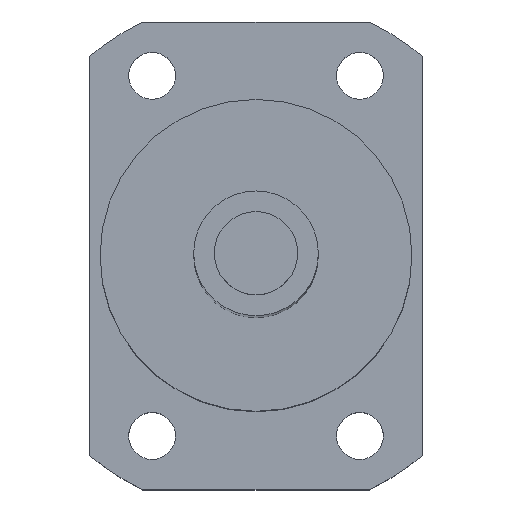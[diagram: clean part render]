
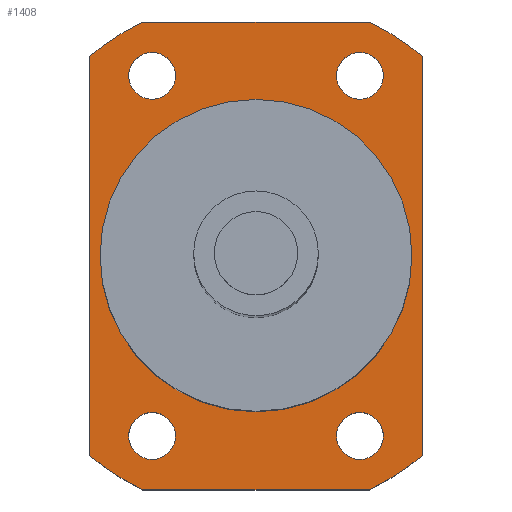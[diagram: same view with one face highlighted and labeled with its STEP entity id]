
A CAD part, top view. The second image highlights one B-rep face of the part: STEP entity #1408.
In plain terms, the highlighted planar face has unit normal (0, 0, 1).
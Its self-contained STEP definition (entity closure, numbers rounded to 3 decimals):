
#328=CARTESIAN_POINT('',(10.,17.321,180.));
#329=DIRECTION('',(0.,0.,-1.));
#330=DIRECTION('',(1.,0.,0.));
#331=AXIS2_PLACEMENT_3D('',#328,#329,#330);
#333=CARTESIAN_POINT('',(10.,17.321,180.));
#334=DIRECTION('',(0.,0.,-1.));
#335=DIRECTION('',(-1.,0.,0.));
#336=AXIS2_PLACEMENT_3D('',#333,#334,#335);
#338=CARTESIAN_POINT('',(-10.,17.321,180.));
#339=DIRECTION('',(0.,0.,-1.));
#340=DIRECTION('',(1.,0.,0.));
#341=AXIS2_PLACEMENT_3D('',#338,#339,#340);
#343=CARTESIAN_POINT('',(-10.,17.321,180.));
#344=DIRECTION('',(0.,0.,-1.));
#345=DIRECTION('',(-1.,0.,0.));
#346=AXIS2_PLACEMENT_3D('',#343,#344,#345);
#348=CARTESIAN_POINT('',(10.,-17.321,180.));
#349=DIRECTION('',(0.,0.,-1.));
#350=DIRECTION('',(1.,0.,0.));
#351=AXIS2_PLACEMENT_3D('',#348,#349,#350);
#353=CARTESIAN_POINT('',(10.,-17.321,180.));
#354=DIRECTION('',(0.,0.,-1.));
#355=DIRECTION('',(-1.,0.,0.));
#356=AXIS2_PLACEMENT_3D('',#353,#354,#355);
#358=CARTESIAN_POINT('',(-10.,-17.321,180.));
#359=DIRECTION('',(0.,0.,-1.));
#360=DIRECTION('',(1.,0.,0.));
#361=AXIS2_PLACEMENT_3D('',#358,#359,#360);
#363=CARTESIAN_POINT('',(-10.,-17.321,180.));
#364=DIRECTION('',(0.,0.,-1.));
#365=DIRECTION('',(-1.,0.,0.));
#366=AXIS2_PLACEMENT_3D('',#363,#364,#365);
#368=CARTESIAN_POINT('',(0.,0.,180.));
#369=DIRECTION('',(0.,0.,1.));
#370=DIRECTION('',(1.,0.,0.));
#371=AXIS2_PLACEMENT_3D('',#368,#369,#370);
#373=CARTESIAN_POINT('',(0.,0.,180.));
#374=DIRECTION('',(0.,0.,1.));
#375=DIRECTION('',(-1.,0.,0.));
#376=AXIS2_PLACEMENT_3D('',#373,#374,#375);
#378=DIRECTION('',(1.,0.,0.));
#379=VECTOR('',#378,21.794);
#380=CARTESIAN_POINT('',(-10.897,22.5,180.));
#381=LINE('',#380,#379);
#382=CARTESIAN_POINT('',(0.,0.,180.));
#383=DIRECTION('',(0.,0.,1.));
#384=DIRECTION('',(0.64,0.768,0.));
#385=AXIS2_PLACEMENT_3D('',#382,#383,#384);
#387=DIRECTION('',(0.,1.,0.));
#388=VECTOR('',#387,38.419);
#389=CARTESIAN_POINT('',(16.,-19.209,180.));
#390=LINE('',#389,#388);
#391=CARTESIAN_POINT('',(0.,0.,180.));
#392=DIRECTION('',(0.,0.,1.));
#393=DIRECTION('',(0.436,-0.9,0.));
#394=AXIS2_PLACEMENT_3D('',#391,#392,#393);
#396=DIRECTION('',(1.,0.,0.));
#397=VECTOR('',#396,21.794);
#398=CARTESIAN_POINT('',(-10.897,-22.5,180.));
#399=LINE('',#398,#397);
#400=CARTESIAN_POINT('',(0.,0.,180.));
#401=DIRECTION('',(0.,0.,1.));
#402=DIRECTION('',(-0.64,-0.768,0.));
#403=AXIS2_PLACEMENT_3D('',#400,#401,#402);
#405=DIRECTION('',(0.,-1.,0.));
#406=VECTOR('',#405,38.419);
#407=CARTESIAN_POINT('',(-16.,19.209,180.));
#408=LINE('',#407,#406);
#409=CARTESIAN_POINT('',(0.,0.,180.));
#410=DIRECTION('',(0.,0.,1.));
#411=DIRECTION('',(-0.436,0.9,0.));
#412=AXIS2_PLACEMENT_3D('',#409,#410,#411);
#721=CARTESIAN_POINT('',(12.25,17.321,180.));
#722=CARTESIAN_POINT('',(7.75,17.321,180.));
#723=VERTEX_POINT('',#721);
#724=VERTEX_POINT('',#722);
#725=CARTESIAN_POINT('',(-7.75,17.321,180.));
#726=CARTESIAN_POINT('',(-12.25,17.321,180.));
#727=VERTEX_POINT('',#725);
#728=VERTEX_POINT('',#726);
#729=CARTESIAN_POINT('',(12.25,-17.321,180.));
#730=CARTESIAN_POINT('',(7.75,-17.321,180.));
#731=VERTEX_POINT('',#729);
#732=VERTEX_POINT('',#730);
#733=CARTESIAN_POINT('',(-7.75,-17.321,180.));
#734=CARTESIAN_POINT('',(-12.25,-17.321,180.));
#735=VERTEX_POINT('',#733);
#736=VERTEX_POINT('',#734);
#737=CARTESIAN_POINT('',(-16.,19.209,180.));
#738=CARTESIAN_POINT('',(-16.,-19.209,180.));
#739=VERTEX_POINT('',#737);
#740=VERTEX_POINT('',#738);
#741=CARTESIAN_POINT('',(16.,-19.209,180.));
#742=CARTESIAN_POINT('',(16.,19.209,180.));
#743=VERTEX_POINT('',#741);
#744=VERTEX_POINT('',#742);
#753=CARTESIAN_POINT('',(15.,0.,180.));
#754=CARTESIAN_POINT('',(-15.,0.,180.));
#755=VERTEX_POINT('',#753);
#756=VERTEX_POINT('',#754);
#829=CARTESIAN_POINT('',(-10.897,22.5,180.));
#830=CARTESIAN_POINT('',(10.897,22.5,180.));
#831=VERTEX_POINT('',#829);
#832=VERTEX_POINT('',#830);
#833=CARTESIAN_POINT('',(-10.897,-22.5,180.));
#834=CARTESIAN_POINT('',(10.897,-22.5,180.));
#835=VERTEX_POINT('',#833);
#836=VERTEX_POINT('',#834);
#1357=CARTESIAN_POINT('',(0.,0.,180.));
#1358=DIRECTION('',(0.,0.,1.));
#1359=DIRECTION('',(1.,0.,0.));
#1360=AXIS2_PLACEMENT_3D('',#1357,#1358,#1359);
#1361=PLANE('',#1360);
#1363=ORIENTED_EDGE('',*,*,#1362,.T.);
#1365=ORIENTED_EDGE('',*,*,#1364,.F.);
#1367=ORIENTED_EDGE('',*,*,#1366,.F.);
#1369=ORIENTED_EDGE('',*,*,#1368,.F.);
#1371=ORIENTED_EDGE('',*,*,#1370,.F.);
#1373=ORIENTED_EDGE('',*,*,#1372,.F.);
#1375=ORIENTED_EDGE('',*,*,#1374,.F.);
#1377=ORIENTED_EDGE('',*,*,#1376,.F.);
#1378=EDGE_LOOP('',(#1363,#1365,#1367,#1369,#1371,#1373,#1375,#1377));
#1379=FACE_OUTER_BOUND('',#1378,.F.);
#1380=ORIENTED_EDGE('',*,*,#1337,.F.);
#1381=ORIENTED_EDGE('',*,*,#1351,.F.);
#1382=EDGE_LOOP('',(#1380,#1381));
#1383=FACE_BOUND('',#1382,.F.);
#1385=ORIENTED_EDGE('',*,*,#1384,.F.);
#1387=ORIENTED_EDGE('',*,*,#1386,.F.);
#1388=EDGE_LOOP('',(#1385,#1387));
#1389=FACE_BOUND('',#1388,.F.);
#1391=ORIENTED_EDGE('',*,*,#1390,.F.);
#1393=ORIENTED_EDGE('',*,*,#1392,.F.);
#1394=EDGE_LOOP('',(#1391,#1393));
#1395=FACE_BOUND('',#1394,.F.);
#1397=ORIENTED_EDGE('',*,*,#1396,.F.);
#1399=ORIENTED_EDGE('',*,*,#1398,.F.);
#1400=EDGE_LOOP('',(#1397,#1399));
#1401=FACE_BOUND('',#1400,.F.);
#1403=ORIENTED_EDGE('',*,*,#1402,.T.);
#1405=ORIENTED_EDGE('',*,*,#1404,.T.);
#1406=EDGE_LOOP('',(#1403,#1405));
#1407=FACE_BOUND('',#1406,.F.);
#1408=ADVANCED_FACE('',(#1379,#1383,#1389,#1395,#1401,#1407),#1361,.T.);
#332=CIRCLE('',#331,2.25);
#337=CIRCLE('',#336,2.25);
#342=CIRCLE('',#341,2.25);
#347=CIRCLE('',#346,2.25);
#352=CIRCLE('',#351,2.25);
#357=CIRCLE('',#356,2.25);
#362=CIRCLE('',#361,2.25);
#367=CIRCLE('',#366,2.25);
#372=CIRCLE('',#371,15.);
#377=CIRCLE('',#376,15.);
#386=CIRCLE('',#385,25.);
#395=CIRCLE('',#394,25.);
#404=CIRCLE('',#403,25.);
#413=CIRCLE('',#412,25.);
#1337=EDGE_CURVE('',#723,#724,#332,.T.);
#1351=EDGE_CURVE('',#724,#723,#337,.T.);
#1362=EDGE_CURVE('',#831,#832,#381,.T.);
#1364=EDGE_CURVE('',#744,#832,#386,.T.);
#1366=EDGE_CURVE('',#743,#744,#390,.T.);
#1368=EDGE_CURVE('',#836,#743,#395,.T.);
#1370=EDGE_CURVE('',#835,#836,#399,.T.);
#1372=EDGE_CURVE('',#740,#835,#404,.T.);
#1374=EDGE_CURVE('',#739,#740,#408,.T.);
#1376=EDGE_CURVE('',#831,#739,#413,.T.);
#1384=EDGE_CURVE('',#727,#728,#342,.T.);
#1386=EDGE_CURVE('',#728,#727,#347,.T.);
#1390=EDGE_CURVE('',#731,#732,#352,.T.);
#1392=EDGE_CURVE('',#732,#731,#357,.T.);
#1396=EDGE_CURVE('',#735,#736,#362,.T.);
#1398=EDGE_CURVE('',#736,#735,#367,.T.);
#1402=EDGE_CURVE('',#755,#756,#372,.T.);
#1404=EDGE_CURVE('',#756,#755,#377,.T.);
